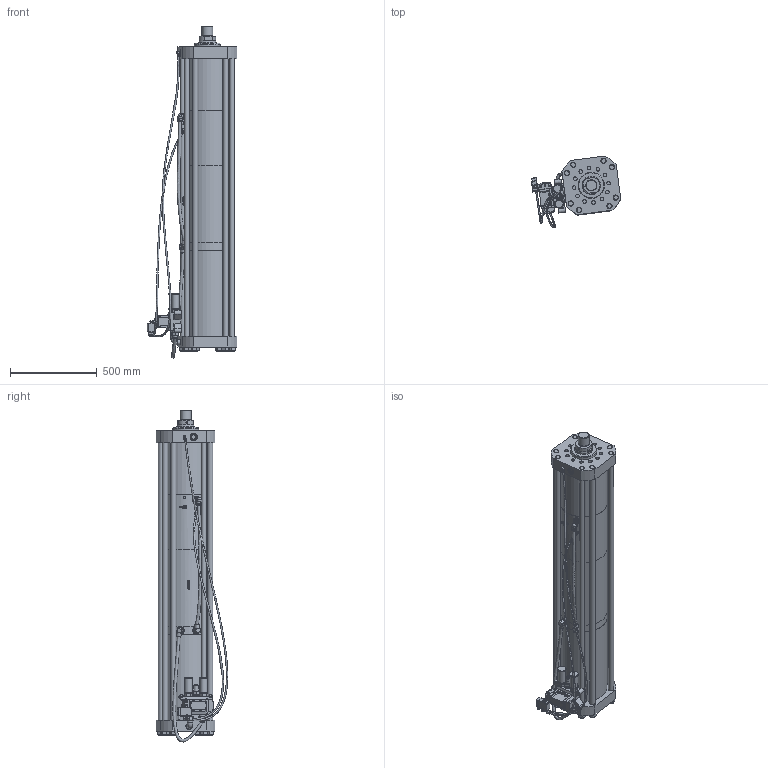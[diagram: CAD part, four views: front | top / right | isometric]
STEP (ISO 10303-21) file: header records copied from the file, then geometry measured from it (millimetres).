
FILE_DESCRIPTION (( 'STEP AP214' ), '1' );
FILE_NAME ('BS100-200-12A.STEP', '2025-01-22T02:58:59', ( '' ), ( '' ), 'SwSTEP 2.0', 'SolidWorks 2022', '' );
FILE_SCHEMA (( 'AUTOMOTIVE_DESIGN' ));
Length unit declared in the file: millimetre
Products named in the file (1): BS100-200-12A
Bounding box: 514.58 x 411.69 x 1912.23 mm (x, y, z)
Surface area: 3806047.8 mm2 (no closed solid volume)
Topology: 0 solids, 93 shells, 727 faces, 2173 edges, 1521 vertices
Faces by surface type: plane 404, cylinder 207, cone 77, bspline 23, torus 13, sphere 3
Full cylindrical faces by diameter (mm): 4 x2, 5 x1, 6.5 x2, 7 x12, 9 x1, 9.516 x1, 9.637 x2, 10 x5, 10.409 x1, 10.41 x1, 11 x4, 11.2 x2, 11.445 x1, 11.5 x4, 12 x1, 13.5 x2, 14 x1, 14.2 x1, 15.2 x4, 16 x1, 16.025 x2, 16.1 x1, 17 x1, 17.5 x2, 18 x1, 20 x1, 21 x12, 22 x1, 27 x1, 28 x1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
Entity records: 35177 total; most frequent: CARTESIAN_POINT 8798, DIRECTION 3798, ORIENTED_EDGE 3086, EDGE_CURVE 1960, VERTEX_POINT 1480, AXIS2_PLACEMENT_3D 1362, EDGE_LOOP 1086, VECTOR 1074
